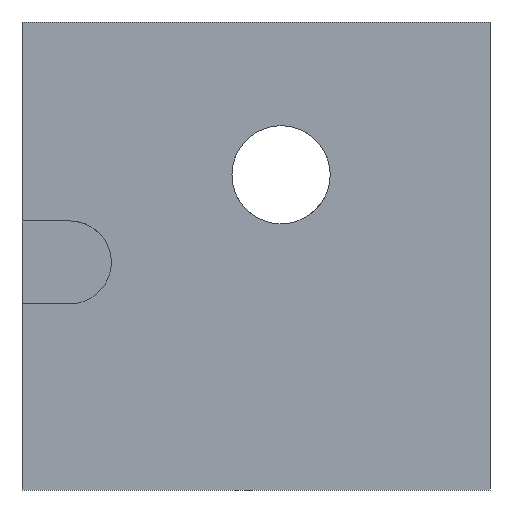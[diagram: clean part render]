
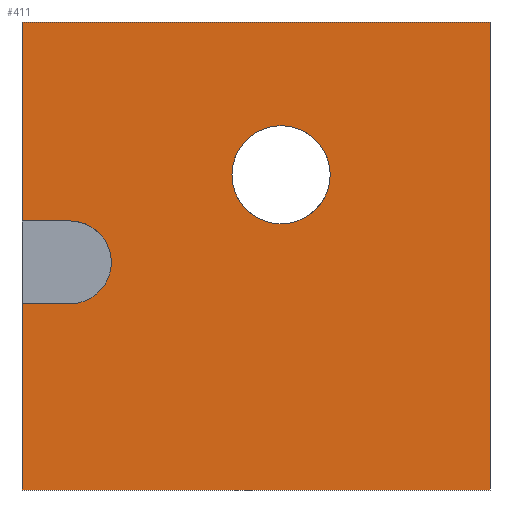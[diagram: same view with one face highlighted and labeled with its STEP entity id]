
A CAD part, front view. The second image highlights one B-rep face of the part: STEP entity #411.
In plain terms, the highlighted planar face has unit normal (0, -1, 0).
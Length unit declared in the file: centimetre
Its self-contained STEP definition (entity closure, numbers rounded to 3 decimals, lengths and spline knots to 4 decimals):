
#2 = VERTEX_POINT ( 'NONE', #1383 ) ;
#11 = VERTEX_POINT ( 'NONE', #100 ) ;
#22 = CIRCLE ( 'NONE', #1665, 88.3328 ) ;
#23 = VERTEX_POINT ( 'NONE', #683 ) ;
#26 = VECTOR ( 'NONE', #1265, 100. ) ;
#27 = DIRECTION ( 'NONE',  ( 0., 0., -1. ) ) ;
#34 = VERTEX_POINT ( 'NONE', #674 ) ;
#37 = EDGE_CURVE ( 'NONE', #1239, #34, #220, .T. ) ;
#48 = VERTEX_POINT ( 'NONE', #1542 ) ;
#73 = ORIENTED_EDGE ( 'NONE', *, *, #1475, .T. ) ;
#100 = CARTESIAN_POINT ( 'NONE',  ( 1000., 0., 0. ) ) ;
#110 = VERTEX_POINT ( 'NONE', #207 ) ;
#114 = AXIS2_PLACEMENT_3D ( 'NONE', #675, #199, #1229 ) ;
#199 = DIRECTION ( 'NONE',  ( 0., -1., 0. ) ) ;
#203 = EDGE_CURVE ( 'NONE', #478, #11, #532, .T. ) ;
#207 = CARTESIAN_POINT ( 'NONE',  ( 553.5723, 0., 568.5305 ) ) ;
#219 = DIRECTION ( 'NONE',  ( 0., -1., 0. ) ) ;
#220 = LINE ( 'NONE', #514, #1496 ) ;
#232 = ORIENTED_EDGE ( 'NONE', *, *, #1121, .F. ) ;
#233 = CARTESIAN_POINT ( 'NONE',  ( 1000., 0., 1000. ) ) ;
#279 = ORIENTED_EDGE ( 'NONE', *, *, #784, .F. ) ;
#283 = CARTESIAN_POINT ( 'NONE',  ( 0., 0., 1000. ) ) ;
#316 = LINE ( 'NONE', #1044, #1635 ) ;
#324 = LINE ( 'NONE', #468, #1187 ) ;
#334 = VECTOR ( 'NONE', #1564, 100. ) ;
#339 = DIRECTION ( 'NONE',  ( 0., 0., -1. ) ) ;
#351 = CARTESIAN_POINT ( 'NONE',  ( 0., 0., 398.1334 ) ) ;
#382 = ORIENTED_EDGE ( 'NONE', *, *, #1598, .T. ) ;
#391 = DIRECTION ( 'NONE',  ( 1., 0., 0. ) ) ;
#411 = ADVANCED_FACE ( 'NONE', ( #1423, #858 ), #1686, .F. ) ;
#468 = CARTESIAN_POINT ( 'NONE',  ( 0., 0., 1000. ) ) ;
#473 = EDGE_LOOP ( 'NONE', ( #279, #232 ) ) ;
#478 = VERTEX_POINT ( 'NONE', #1537 ) ;
#514 = CARTESIAN_POINT ( 'NONE',  ( 0., 0., 398.1334 ) ) ;
#532 = LINE ( 'NONE', #233, #334 ) ;
#534 = EDGE_CURVE ( 'NONE', #34, #2, #22, .T. ) ;
#593 = LINE ( 'NONE', #1023, #850 ) ;
#661 = ORIENTED_EDGE ( 'NONE', *, *, #37, .F. ) ;
#674 = CARTESIAN_POINT ( 'NONE',  ( 102.7293, 0., 398.1334 ) ) ;
#675 = CARTESIAN_POINT ( 'NONE',  ( 553.5723, 0., 673.5307 ) ) ;
#683 = CARTESIAN_POINT ( 'NONE',  ( 553.5723, 0., 778.5309 ) ) ;
#761 = CIRCLE ( 'NONE', #1155, 105.0002 ) ;
#768 = ORIENTED_EDGE ( 'NONE', *, *, #1681, .F. ) ;
#784 = EDGE_CURVE ( 'NONE', #110, #23, #1368, .T. ) ;
#792 = CARTESIAN_POINT ( 'NONE',  ( 553.5723, 0., 673.5307 ) ) ;
#795 = VECTOR ( 'NONE', #339, 100. ) ;
#796 = CARTESIAN_POINT ( 'NONE',  ( 102.7293, 0., 486.4662 ) ) ;
#798 = CARTESIAN_POINT ( 'NONE',  ( 0., 0., 1000. ) ) ;
#850 = VECTOR ( 'NONE', #1680, 100. ) ;
#858 = FACE_OUTER_BOUND ( 'NONE', #1808, .T. ) ;
#900 = ORIENTED_EDGE ( 'NONE', *, *, #534, .F. ) ;
#965 = AXIS2_PLACEMENT_3D ( 'NONE', #1129, #989, #1283 ) ;
#983 = VERTEX_POINT ( 'NONE', #283 ) ;
#989 = DIRECTION ( 'NONE',  ( 0., 1., 0. ) ) ;
#1023 = CARTESIAN_POINT ( 'NONE',  ( 0., 0., 0. ) ) ;
#1031 = CARTESIAN_POINT ( 'NONE',  ( 0., 0., 0. ) ) ;
#1044 = CARTESIAN_POINT ( 'NONE',  ( 102.7293, 0., 574.799 ) ) ;
#1101 = DIRECTION ( 'NONE',  ( 0., 0., -1. ) ) ;
#1121 = EDGE_CURVE ( 'NONE', #23, #110, #761, .T. ) ;
#1129 = CARTESIAN_POINT ( 'NONE',  ( 0., 0., 1000. ) ) ;
#1155 = AXIS2_PLACEMENT_3D ( 'NONE', #792, #219, #1376 ) ;
#1187 = VECTOR ( 'NONE', #27, 100. ) ;
#1229 = DIRECTION ( 'NONE',  ( 0., 0., -1. ) ) ;
#1239 = VERTEX_POINT ( 'NONE', #351 ) ;
#1265 = DIRECTION ( 'NONE',  ( 1., 0., 0. ) ) ;
#1283 = DIRECTION ( 'NONE',  ( 0., 0., 1. ) ) ;
#1368 = CIRCLE ( 'NONE', #114, 105.0002 ) ;
#1376 = DIRECTION ( 'NONE',  ( 0., 0., -1. ) ) ;
#1383 = CARTESIAN_POINT ( 'NONE',  ( 102.7293, 0., 574.799 ) ) ;
#1423 = FACE_BOUND ( 'NONE', #473, .T. ) ;
#1425 = EDGE_CURVE ( 'NONE', #1239, #1659, #1809, .T. ) ;
#1450 = ORIENTED_EDGE ( 'NONE', *, *, #203, .F. ) ;
#1453 = CARTESIAN_POINT ( 'NONE',  ( 0., 0., 1000. ) ) ;
#1454 = ORIENTED_EDGE ( 'NONE', *, *, #1425, .T. ) ;
#1475 = EDGE_CURVE ( 'NONE', #1659, #11, #593, .T. ) ;
#1496 = VECTOR ( 'NONE', #391, 100. ) ;
#1537 = CARTESIAN_POINT ( 'NONE',  ( 1000., 0., 1000. ) ) ;
#1542 = CARTESIAN_POINT ( 'NONE',  ( 0., 0., 574.799 ) ) ;
#1564 = DIRECTION ( 'NONE',  ( 0., 0., -1. ) ) ;
#1584 = EDGE_CURVE ( 'NONE', #983, #478, #1698, .T. ) ;
#1598 = EDGE_CURVE ( 'NONE', #983, #48, #324, .T. ) ;
#1635 = VECTOR ( 'NONE', #1732, 100. ) ;
#1655 = ORIENTED_EDGE ( 'NONE', *, *, #1584, .F. ) ;
#1659 = VERTEX_POINT ( 'NONE', #1031 ) ;
#1665 = AXIS2_PLACEMENT_3D ( 'NONE', #796, #1807, #1101 ) ;
#1680 = DIRECTION ( 'NONE',  ( 1., 0., 0. ) ) ;
#1681 = EDGE_CURVE ( 'NONE', #2, #48, #316, .T. ) ;
#1686 = PLANE ( 'NONE',  #965 ) ;
#1698 = LINE ( 'NONE', #1453, #26 ) ;
#1732 = DIRECTION ( 'NONE',  ( -1., 0., 0. ) ) ;
#1807 = DIRECTION ( 'NONE',  ( 0., -1., 0. ) ) ;
#1808 = EDGE_LOOP ( 'NONE', ( #382, #768, #900, #661, #1454, #73, #1450, #1655 ) ) ;
#1809 = LINE ( 'NONE', #798, #795 ) ;
